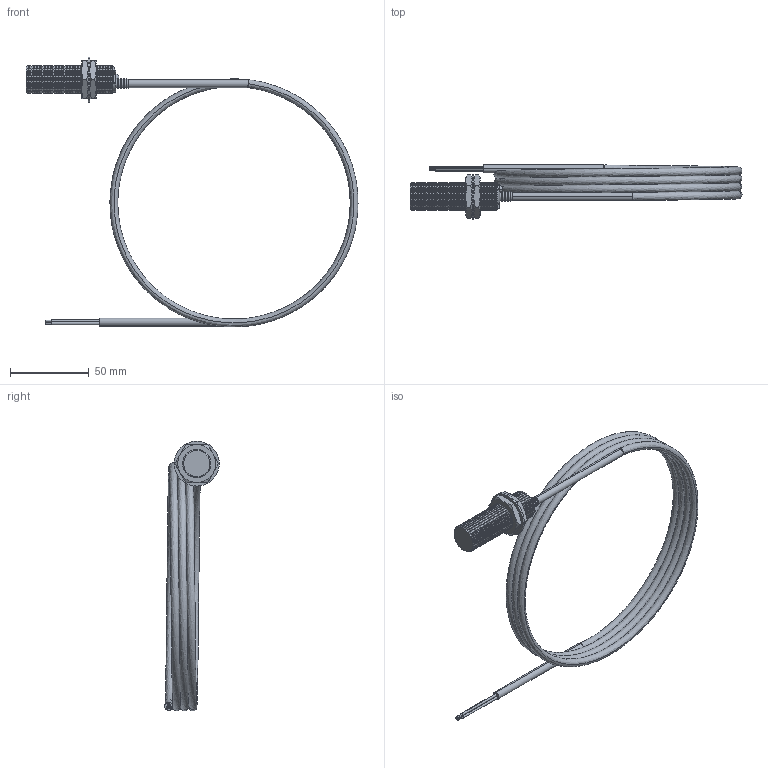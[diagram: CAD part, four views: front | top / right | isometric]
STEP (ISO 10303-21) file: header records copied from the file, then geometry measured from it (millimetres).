
FILE_DESCRIPTION (( 'STEP AP203' ), '1' );
FILE_NAME ('90-29417-075.STEP', '2016-04-26T15:38:55', ( 'Sam' ), ( 'Spade' ), 'SwSTEP 2.0', 'SolidWorks 2002296', '' );
FILE_SCHEMA (( 'CONFIG_CONTROL_DESIGN' ));
Length unit declared in the file: inch
Products named in the file (18): 90-29417-075; Imported12; Imported15; Imported14; Imported13; Imported19; Imported18; Imported17; Imported16; Imported22; Imported21; Imported20; Imported25; Imported24; Imported23; Imported28; Imported27; Imported26
Assembly tree (17 placements, depth 2):
  90-29417-075
    Imported21
    Imported15
    Imported20
    Imported25
    Imported23
    Imported14
    Imported17
    Imported18
    Imported27
    Imported26
    Imported16
    Imported19
    Imported12
    Imported13
    Imported28
    Imported22
    Imported24
Bounding box: 210.74 x 34.58 x 171.26 mm (x, y, z)
Volume: 52697.5 mm3; surface area: 39515.9 mm2
Topology: 17 solids, 17 shells, 565 faces, 1173 edges, 648 vertices
Faces by surface type: cone 274, cylinder 186, plane 98, bspline 7
Entity records: 17717 total; most frequent: CARTESIAN_POINT 3643, DIRECTION 2802, ORIENTED_EDGE 2338, EDGE_CURVE 1169, AXIS2_PLACEMENT_3D 1113, VERTEX_POINT 648, EDGE_LOOP 583, LINE 576
